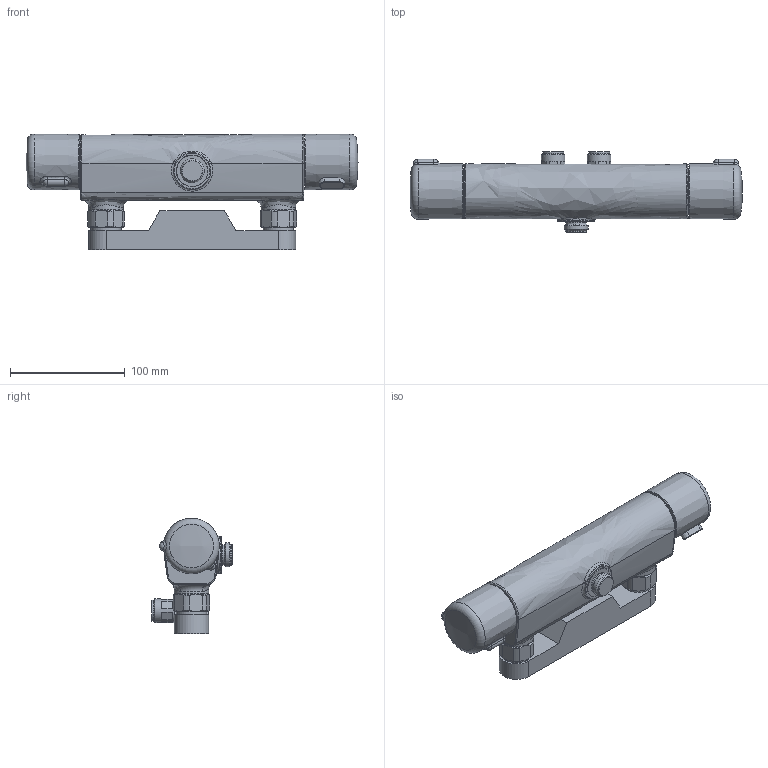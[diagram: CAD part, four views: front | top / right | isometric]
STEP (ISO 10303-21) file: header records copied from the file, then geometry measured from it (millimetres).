
FILE_DESCRIPTION (( 'STEP AP203' ), '1' );
FILE_NAME ('7466(2016).STEP', '2017-03-09T06:01:02', ( '' ), ( '' ), 'SwSTEP 2.0', 'SolidWorks 2016', '' );
FILE_SCHEMA (( 'CONFIG_CONTROL_DESIGN' ));
Length unit declared in the file: millimetre
Products named in the file (1): 7466(2016)
Bounding box: 289.1 x 69.9 x 100.53 mm (x, y, z)
Volume: 808794 mm3; surface area: 84026.8 mm2
Topology: 1 solids, 3 shells, 229 faces, 519 edges, 322 vertices
Faces by surface type: plane 83, bspline 50, cylinder 39, cone 36, torus 13, sphere 8
Full cylindrical faces by diameter (mm): 18 x1, 18.2 x1, 18.3 x2, 20.5 x2, 20.955 x1, 26 x2, 26.441 x2, 27.5 x1, 30 x2, 40.531 x2
Entity records: 12082 total; most frequent: CARTESIAN_POINT 7546, ORIENTED_EDGE 922, DIRECTION 822, EDGE_CURVE 461, AXIS2_PLACEMENT_3D 353, VERTEX_POINT 301, EDGE_LOOP 298, FACE_OUTER_BOUND 254
